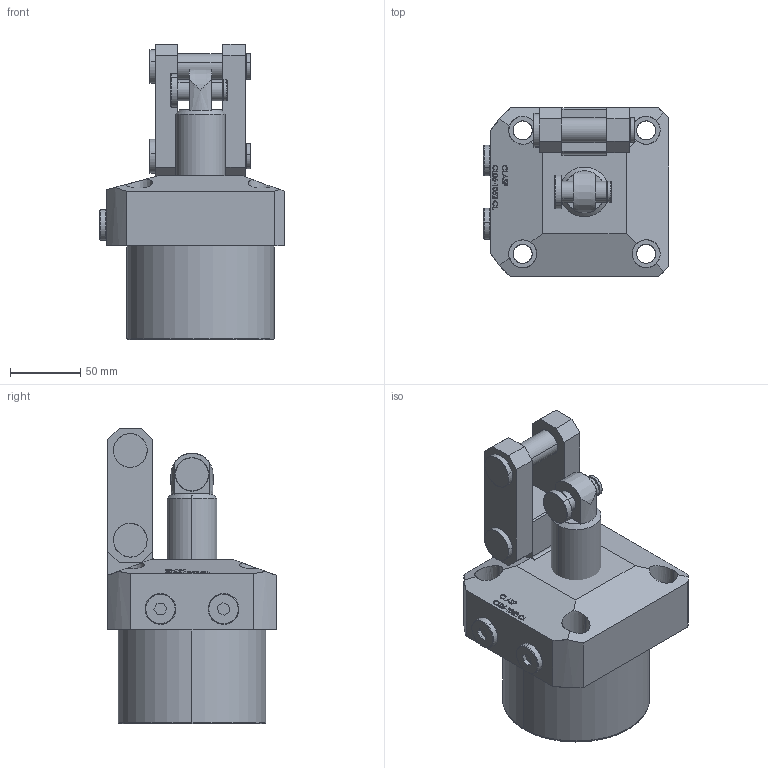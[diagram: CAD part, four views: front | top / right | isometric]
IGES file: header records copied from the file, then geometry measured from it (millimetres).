
Start section: SolidWorks IGES file using analytic representation for surfaces
Global section: file name: D:\karuppas\Clasp\3D model\Link clamp cylinder\CL06-1052-CL\CL06-1052-cl.IGS; native system: SolidWorks 2017; preprocessor: SolidWorks 2017; author: pc; date: 220705.231547; units: millimetre
Bounding box: 132 x 120 x 211 mm (x, y, z)
Surface area: 138016.5 mm2 (no closed solid volume)
Topology: 0 solids, 0 shells, 397 faces, 6201 edges, 6197 vertices
Faces by surface type: bspline 271, revolution 126
